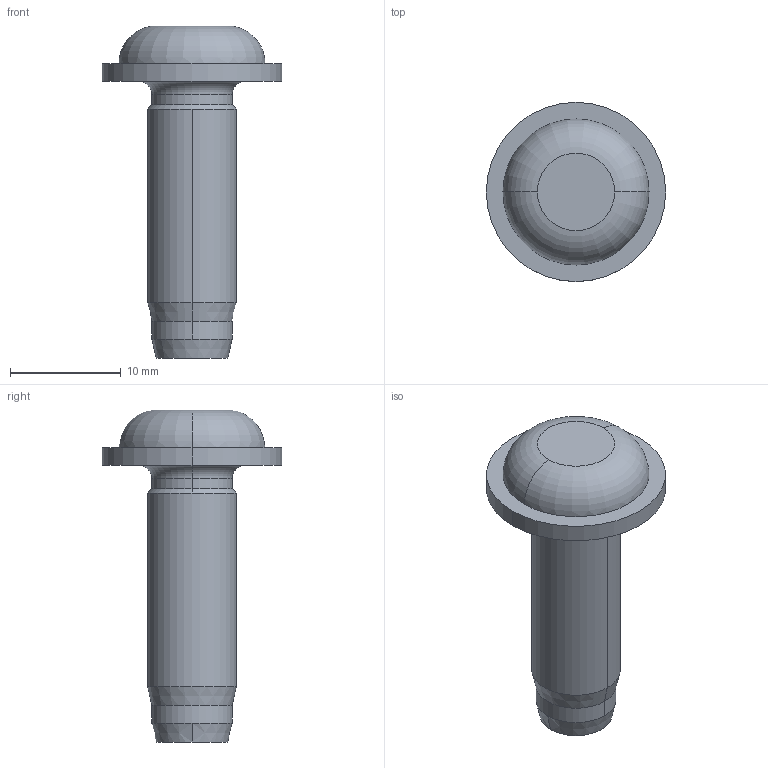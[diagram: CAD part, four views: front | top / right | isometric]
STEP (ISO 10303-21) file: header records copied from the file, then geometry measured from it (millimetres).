
FILE_DESCRIPTION (( 'STEP AP214' ), '1' );
FILE_NAME ('Transept Giltec-VS7X25.STEP', '2018-01-25T13:18:07', ( '' ), ( '' ), 'SwSTEP 2.0', 'SolidWorks 2018', '' );
FILE_SCHEMA (( 'AUTOMOTIVE_DESIGN' ));
Length unit declared in the file: millimetre
Products named in the file (1): Transept Giltec-VS7X25
Bounding box: 16.2 x 16.2 x 30 mm (x, y, z)
Volume: 1903.7 mm3; surface area: 1166.8 mm2
Topology: 1 solids, 1 shells, 22 faces, 48 edges, 30 vertices
Faces by surface type: cylinder 8, cone 6, torus 4, plane 4
Entity records: 696 total; most frequent: CARTESIAN_POINT 151, DIRECTION 124, ORIENTED_EDGE 96, AXIS2_PLACEMENT_3D 55, EDGE_CURVE 48, CIRCLE 32, VERTEX_POINT 30, EDGE_LOOP 24
